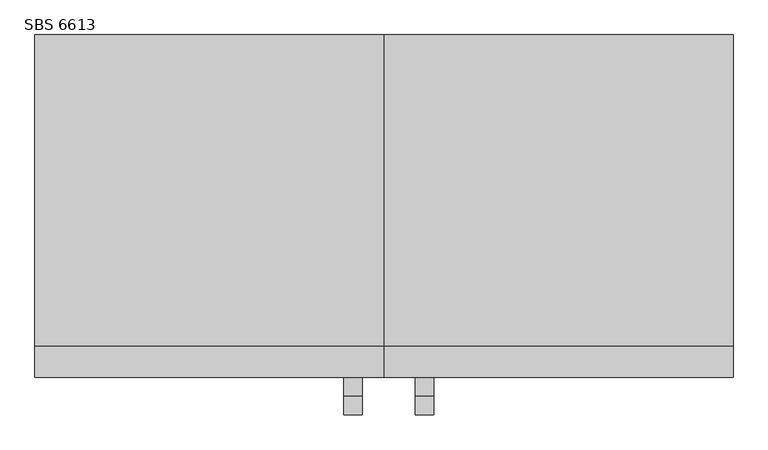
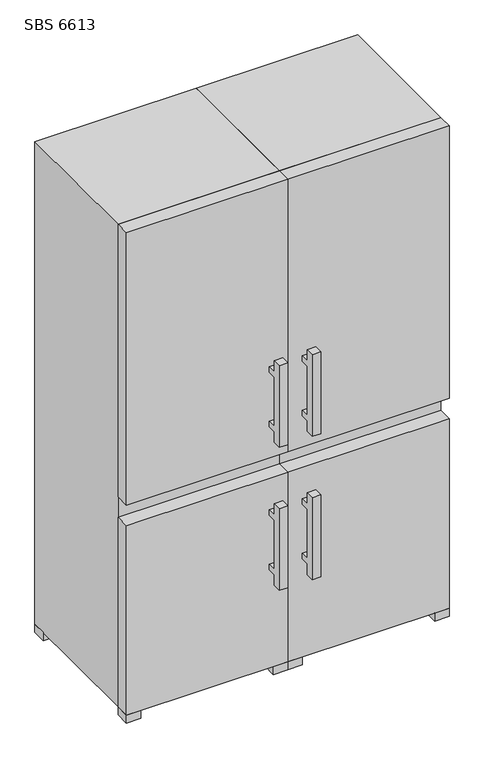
"""IFC4 building model written with IfcOpenShell, lengths in millimetres: proxy geometry, SBS 6613 : SICN 3314."""

from ifc_helpers import new_model, si_unit, frame, origin, place, context, project, spatial, polyline, outline, extrude, source, transform, mapped, element, save


def sbs_6613_08350c93(model_context):
    return source(origin(), model_context, "Body", "SweptSolid", [
        extrude(outline(polyline([(1847.8619776, -223.1867483), (1877.8619776, -223.1867483), (1877.8619776, -243.1867483), (1847.8619776, -243.1867483), (1847.8619776, -423.1867483), (1877.8619776, -423.1867483), (1877.8619776, -443.1867483), (1847.8619776, -443.1867483), (1847.8619776, -483.1867483), (1817.8619776, -483.1867483), (1817.8619776, -183.1867483), (1847.8619776, -183.1867483), (1847.8619776, -223.1867483)])), frame((3634.158754, 0.0, 0.0), z_axis=(1.0, 0.0, 0.0), x_axis=(0.0, 1.0, 0.0)), (0.0, 0.0, 1.0), 30.0),
        extrude(outline(polyline([(3698.7375926, 1877.8619776), (3138.7375926, 1877.8619776), (3138.7375926, 1927.8619776), (3698.7375926, 1927.8619776), (3698.7375926, 1877.8619776)])), frame((0.0, 0.0, -803.1867483), z_axis=(0.0, 0.0, 1.0), x_axis=(1.0, 0.0, 0.0)), (0.0, 0.0, 1.0), 695.0),
        extrude(outline(polyline([(3698.7375926, 1927.8619776), (3698.7375926, 1877.8619776), (3648.7375926, 1877.8619776), (3648.7375926, 1927.8619776), (3698.7375926, 1927.8619776)])), frame((0.0, 0.0, -833.1867483), z_axis=(0.0, 0.0, 1.0), x_axis=(1.0, 0.0, 0.0)), (0.0, 0.0, 1.0), 30.0),
        extrude(outline(polyline([(3698.7375926, 2427.8619776), (3698.7375926, 2377.8619776), (3648.7375926, 2377.8619776), (3648.7375926, 2427.8619776), (3698.7375926, 2427.8619776)])), frame((0.0, 0.0, -833.1867483), z_axis=(0.0, 0.0, 1.0), x_axis=(1.0, 0.0, 0.0)), (0.0, 0.0, 1.0), 30.0),
        extrude(outline(polyline([(3188.7375926, 2427.8619776), (3188.7375926, 2377.8619776), (3138.7375926, 2377.8619776), (3138.7375926, 2427.8619776), (3188.7375926, 2427.8619776)])), frame((0.0, 0.0, -833.1867483), z_axis=(0.0, 0.0, 1.0), x_axis=(1.0, 0.0, 0.0)), (0.0, 0.0, 1.0), 30.0),
        extrude(outline(polyline([(3188.7375926, 1927.8619776), (3188.7375926, 1877.8619776), (3138.7375926, 1877.8619776), (3138.7375926, 1927.8619776), (3188.7375926, 1927.8619776)])), frame((0.0, 0.0, -833.1867483), z_axis=(0.0, 0.0, 1.0), x_axis=(1.0, 0.0, 0.0)), (0.0, 0.0, 1.0), 30.0),
        extrude(outline(polyline([(1847.8619776, 301.8132517), (1877.8619776, 301.8132517), (1877.8619776, 281.8132517), (1847.8619776, 281.8132517), (1847.8619776, 101.8132517), (1877.8619776, 101.8132517), (1877.8619776, 81.8132517), (1847.8619776, 81.8132517), (1847.8619776, 41.8132517), (1817.8619776, 41.8132517), (1817.8619776, 341.8132517), (1847.8619776, 341.8132517), (1847.8619776, 301.8132517)])), frame((3634.158754, 0.0, 0.0), z_axis=(1.0, 0.0, 0.0), x_axis=(0.0, 1.0, 0.0)), (0.0, 0.0, 1.0), 30.0),
        extrude(outline(polyline([(3698.7375926, 1877.8619776), (3138.7375926, 1877.8619776), (3138.7375926, 1927.8619776), (3698.7375926, 1927.8619776), (3698.7375926, 1877.8619776)])), frame((0.0, 0.0, -33.1867483), z_axis=(0.0, 0.0, 1.0), x_axis=(1.0, 0.0, 0.0)), (0.0, 0.0, 1.0), 1000.0),
        extrude(outline(polyline([(3698.7375926, 1927.8619776), (3138.7375926, 1927.8619776), (3138.7375926, 2427.8619776), (3698.7375926, 2427.8619776), (3698.7375926, 1927.8619776)])), frame((0.0, 0.0, -803.1867483), z_axis=(0.0, 0.0, 1.0), x_axis=(1.0, 0.0, 0.0)), (0.0, 0.0, 1.0), 1770.0),
        extrude(outline(polyline([(1847.8619776, -223.1867483), (1877.8619776, -223.1867483), (1877.8619776, -243.1867483), (1847.8619776, -243.1867483), (1847.8619776, -423.1867483), (1877.8619776, -423.1867483), (1877.8619776, -443.1867483), (1847.8619776, -443.1867483), (1847.8619776, -483.1867483), (1817.8619776, -483.1867483), (1817.8619776, -183.1867483), (1847.8619776, -183.1867483), (1847.8619776, -223.1867483)])), frame((3748.7375926, 0.0, 0.0), z_axis=(1.0, 0.0, 0.0), x_axis=(0.0, 1.0, 0.0)), (0.0, 0.0, 1.0), 30.0),
        extrude(outline(polyline([(4258.7375926, 1877.8619776), (3698.7375926, 1877.8619776), (3698.7375926, 1927.8619776), (4258.7375926, 1927.8619776), (4258.7375926, 1877.8619776)])), frame((0.0, 0.0, -803.1867483), z_axis=(0.0, 0.0, 1.0), x_axis=(1.0, 0.0, 0.0)), (0.0, 0.0, 1.0), 695.0),
        extrude(outline(polyline([(4258.7375926, 1927.8619776), (4258.7375926, 1877.8619776), (4208.7375926, 1877.8619776), (4208.7375926, 1927.8619776), (4258.7375926, 1927.8619776)])), frame((0.0, 0.0, -833.1867483), z_axis=(0.0, 0.0, 1.0), x_axis=(1.0, 0.0, 0.0)), (0.0, 0.0, 1.0), 30.0),
        extrude(outline(polyline([(4258.7375926, 2427.8619776), (4258.7375926, 2377.8619776), (4208.7375926, 2377.8619776), (4208.7375926, 2427.8619776), (4258.7375926, 2427.8619776)])), frame((0.0, 0.0, -833.1867483), z_axis=(0.0, 0.0, 1.0), x_axis=(1.0, 0.0, 0.0)), (0.0, 0.0, 1.0), 30.0),
        extrude(outline(polyline([(3748.7375926, 2427.8619776), (3748.7375926, 2377.8619776), (3698.7375926, 2377.8619776), (3698.7375926, 2427.8619776), (3748.7375926, 2427.8619776)])), frame((0.0, 0.0, -833.1867483), z_axis=(0.0, 0.0, 1.0), x_axis=(1.0, 0.0, 0.0)), (0.0, 0.0, 1.0), 30.0),
        extrude(outline(polyline([(3748.7375926, 1927.8619776), (3748.7375926, 1877.8619776), (3698.7375926, 1877.8619776), (3698.7375926, 1927.8619776), (3748.7375926, 1927.8619776)])), frame((0.0, 0.0, -833.1867483), z_axis=(0.0, 0.0, 1.0), x_axis=(1.0, 0.0, 0.0)), (0.0, 0.0, 1.0), 30.0),
        extrude(outline(polyline([(1847.8619776, 301.8132517), (1877.8619776, 301.8132517), (1877.8619776, 281.8132517), (1847.8619776, 281.8132517), (1847.8619776, 101.8132517), (1877.8619776, 101.8132517), (1877.8619776, 81.8132517), (1847.8619776, 81.8132517), (1847.8619776, 41.8132517), (1817.8619776, 41.8132517), (1817.8619776, 341.8132517), (1847.8619776, 341.8132517), (1847.8619776, 301.8132517)])), frame((3748.7375926, 0.0, 0.0), z_axis=(1.0, 0.0, 0.0), x_axis=(0.0, 1.0, 0.0)), (0.0, 0.0, 1.0), 30.0),
        extrude(outline(polyline([(4258.7375926, 1877.8619776), (3698.7375926, 1877.8619776), (3698.7375926, 1927.8619776), (4258.7375926, 1927.8619776), (4258.7375926, 1877.8619776)])), frame((0.0, 0.0, -33.1867483), z_axis=(0.0, 0.0, 1.0), x_axis=(1.0, 0.0, 0.0)), (0.0, 0.0, 1.0), 1000.0),
        extrude(outline(polyline([(4258.7375926, 1927.8619776), (3698.7375926, 1927.8619776), (3698.7375926, 2427.8619776), (4258.7375926, 2427.8619776), (4258.7375926, 1927.8619776)])), frame((0.0, 0.0, -803.1867483), z_axis=(0.0, 0.0, 1.0), x_axis=(1.0, 0.0, 0.0)), (0.0, 0.0, 1.0), 1770.0),
    ])


if __name__ == "__main__":
    model = new_model("IFC4")
    model_context = context("Model", 3, world=origin())
    ifc_project = project(units=[si_unit("LENGTHUNIT", "METRE", prefix="MILLI")], contexts=[model_context])
    site = spatial("IfcSite", under=ifc_project)
    building = spatial("IfcBuilding", under=site)
    placement = place(None, origin())
    sbs_6613_shape = sbs_6613_08350c93(model_context)
    element("IfcBuildingElementProxy", 1, Name="SBS 6613 : SICN 3314", ObjectType="SBS 6613 : SICN 3314", at=placement, inside=building, context=model_context, shape_type="MappedRepresentation", body=[
        mapped(sbs_6613_shape, transform((0.0, 0.0, 0.0), x_axis=(1.0, 0.0, 0.0), y_axis=(0.0, 1.0, 0.0), z_axis=(0.0, 0.0, 1.0))),
    ])
    save(model, "model.ifc")
